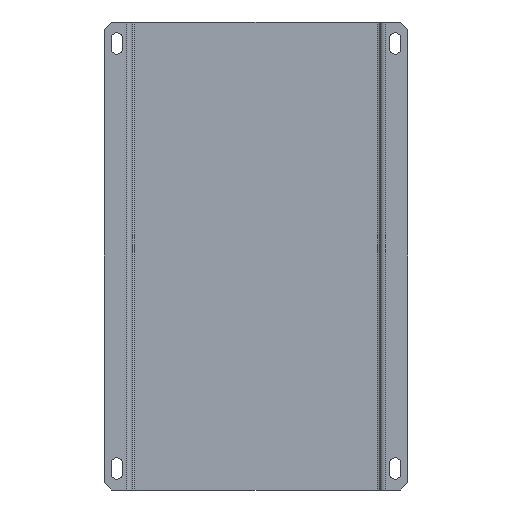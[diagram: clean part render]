
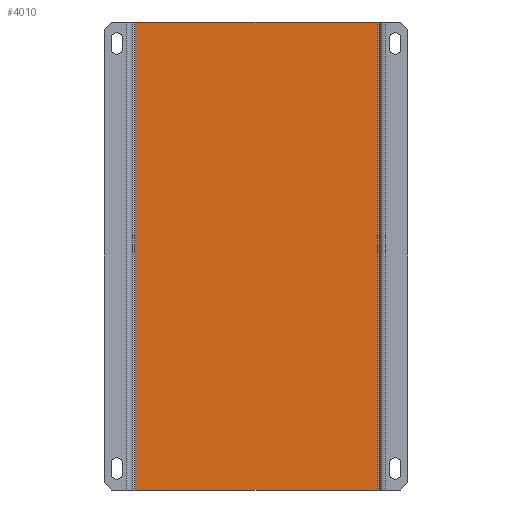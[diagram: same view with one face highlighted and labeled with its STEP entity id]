
A CAD part, front view. The second image highlights one B-rep face of the part: STEP entity #4010.
In plain terms, the highlighted planar face has unit normal (0, -1, 0).
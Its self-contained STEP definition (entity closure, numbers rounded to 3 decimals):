
#640 = CARTESIAN_POINT ( 'NONE',  ( -96., 23., 0. ) ) ;
#673 = DIRECTION ( 'NONE',  ( 1., 0., 0. ) ) ;
#703 = DIRECTION ( 'NONE',  ( 0., 1., 0. ) ) ;
#946 = EDGE_CURVE ( 'NONE', #10786, #7518, #10428, .T. ) ;
#1813 = VECTOR ( 'NONE', #673, 1000. ) ;
#1916 = VECTOR ( 'NONE', #10329, 1000. ) ;
#1979 = DIRECTION ( 'NONE',  ( 0., 0., -1. ) ) ;
#2056 = EDGE_LOOP ( 'NONE', ( #5900, #5025, #8420, #4206 ) ) ;
#2474 = CARTESIAN_POINT ( 'NONE',  ( -96., 23., 370. ) ) ;
#2605 = LINE ( 'NONE', #2474, #1916 ) ;
#3061 = FACE_OUTER_BOUND ( 'NONE', #2056, .T. ) ;
#3237 = PLANE ( 'NONE',  #3433 ) ;
#3298 = LINE ( 'NONE', #8940, #10063 ) ;
#3312 = CARTESIAN_POINT ( 'NONE',  ( -96., 23., 370. ) ) ;
#3433 = AXIS2_PLACEMENT_3D ( 'NONE', #3312, #703, #9313 ) ;
#3649 = EDGE_CURVE ( 'NONE', #10840, #6521, #4974, .T. ) ;
#4010 = ADVANCED_FACE ( 'NONE', ( #3061 ), #3237, .F. ) ;
#4206 = ORIENTED_EDGE ( 'NONE', *, *, #5993, .T. ) ;
#4898 = CARTESIAN_POINT ( 'NONE',  ( 96., 23., 370. ) ) ;
#4974 = LINE ( 'NONE', #11032, #1813 ) ;
#5025 = ORIENTED_EDGE ( 'NONE', *, *, #10839, .F. ) ;
#5900 = ORIENTED_EDGE ( 'NONE', *, *, #946, .T. ) ;
#5993 = EDGE_CURVE ( 'NONE', #10840, #10786, #2605, .T. ) ;
#6521 = VERTEX_POINT ( 'NONE', #4898 ) ;
#7442 = CARTESIAN_POINT ( 'NONE',  ( -96., 23., 0. ) ) ;
#7518 = VERTEX_POINT ( 'NONE', #9355 ) ;
#8080 = CARTESIAN_POINT ( 'NONE',  ( -96., 23., 370. ) ) ;
#8420 = ORIENTED_EDGE ( 'NONE', *, *, #3649, .F. ) ;
#8564 = VECTOR ( 'NONE', #10951, 1000. ) ;
#8940 = CARTESIAN_POINT ( 'NONE',  ( 96., 23., 370. ) ) ;
#9313 = DIRECTION ( 'NONE',  ( 0., 0., 1. ) ) ;
#9355 = CARTESIAN_POINT ( 'NONE',  ( 96., 23., 0. ) ) ;
#10063 = VECTOR ( 'NONE', #1979, 1000. ) ;
#10329 = DIRECTION ( 'NONE',  ( 0., 0., -1. ) ) ;
#10428 = LINE ( 'NONE', #640, #8564 ) ;
#10786 = VERTEX_POINT ( 'NONE', #7442 ) ;
#10839 = EDGE_CURVE ( 'NONE', #6521, #7518, #3298, .T. ) ;
#10840 = VERTEX_POINT ( 'NONE', #8080 ) ;
#10951 = DIRECTION ( 'NONE',  ( 1., 0., 0. ) ) ;
#11032 = CARTESIAN_POINT ( 'NONE',  ( -96., 23., 370. ) ) ;
